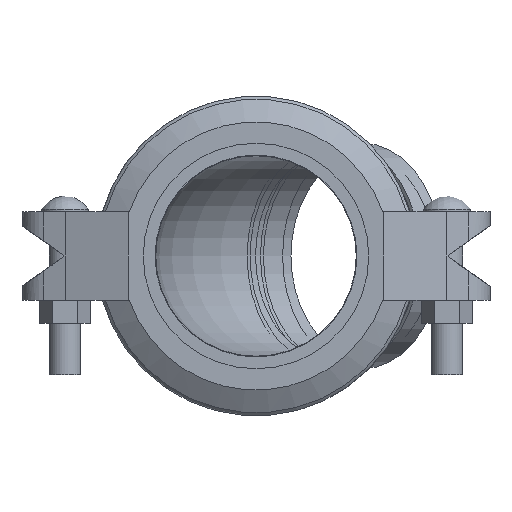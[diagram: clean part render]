
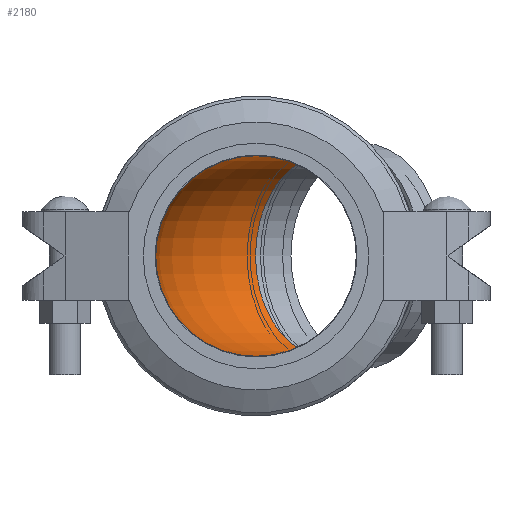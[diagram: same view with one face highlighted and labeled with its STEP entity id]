
A CAD part, left-side view. The second image highlights one B-rep face of the part: STEP entity #2180.
In plain terms, the highlighted toroidal (fillet/blend) face has major radius 122.642 mm and minor radius 51.13 mm.
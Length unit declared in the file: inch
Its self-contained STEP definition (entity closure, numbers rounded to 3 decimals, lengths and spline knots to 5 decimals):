
#70=TOROIDAL_SURFACE('',#2410,4.82843,2.013);
#471=FACE_OUTER_BOUND('',#592,.T.);
#592=EDGE_LOOP('',(#1386,#1387,#1388,#1389,#1390,#1391));
#735=CIRCLE('',#2411,2.013);
#736=CIRCLE('',#2412,2.013);
#737=CIRCLE('',#2413,2.81543);
#738=CIRCLE('',#2414,2.013);
#739=CIRCLE('',#2415,2.013);
#851=VERTEX_POINT('',#3360);
#852=VERTEX_POINT('',#3361);
#853=VERTEX_POINT('',#3364);
#854=VERTEX_POINT('',#3366);
#1063=EDGE_CURVE('',#851,#852,#735,.T.);
#1064=EDGE_CURVE('',#852,#851,#736,.T.);
#1065=EDGE_CURVE('',#851,#853,#737,.T.);
#1066=EDGE_CURVE('',#853,#854,#738,.T.);
#1067=EDGE_CURVE('',#854,#853,#739,.T.);
#1386=ORIENTED_EDGE('',*,*,#1063,.T.);
#1387=ORIENTED_EDGE('',*,*,#1064,.T.);
#1388=ORIENTED_EDGE('',*,*,#1065,.T.);
#1389=ORIENTED_EDGE('',*,*,#1066,.T.);
#1390=ORIENTED_EDGE('',*,*,#1067,.T.);
#1391=ORIENTED_EDGE('',*,*,#1065,.F.);
#2180=ADVANCED_FACE('',(#471),#70,.F.);
#2410=AXIS2_PLACEMENT_3D('',#3359,#2690,#2691);
#2411=AXIS2_PLACEMENT_3D('',#3362,#2692,#2693);
#2412=AXIS2_PLACEMENT_3D('',#3363,#2694,#2695);
#2413=AXIS2_PLACEMENT_3D('',#3365,#2696,#2697);
#2414=AXIS2_PLACEMENT_3D('',#3367,#2698,#2699);
#2415=AXIS2_PLACEMENT_3D('',#3368,#2700,#2701);
#2690=DIRECTION('center_axis',(0.,0.,-1.));
#2691=DIRECTION('ref_axis',(-1.,0.,0.));
#2692=DIRECTION('center_axis',(0.,-1.,0.));
#2693=DIRECTION('ref_axis',(1.,0.,0.));
#2694=DIRECTION('center_axis',(0.,-1.,0.));
#2695=DIRECTION('ref_axis',(1.,0.,0.));
#2696=DIRECTION('center_axis',(0.,0.,-1.));
#2697=DIRECTION('ref_axis',(-1.,0.,0.));
#2698=DIRECTION('center_axis',(0.707,0.707,0.));
#2699=DIRECTION('ref_axis',(0.707,-0.707,0.));
#2700=DIRECTION('center_axis',(0.707,0.707,0.));
#2701=DIRECTION('ref_axis',(0.707,-0.707,0.));
#3359=CARTESIAN_POINT('Origin',(4.82843,1.,0.));
#3360=CARTESIAN_POINT('',(2.013,1.,0.));
#3361=CARTESIAN_POINT('',(-2.013,1.,0.));
#3362=CARTESIAN_POINT('Origin',(0.,1.,0.));
#3363=CARTESIAN_POINT('Origin',(0.,1.,0.));
#3364=CARTESIAN_POINT('',(2.83762,2.99081,0.));
#3365=CARTESIAN_POINT('Origin',(4.82843,1.,0.));
#3366=CARTESIAN_POINT('',(-0.00919,5.83762,0.));
#3367=CARTESIAN_POINT('Origin',(1.41421,4.41421,0.));
#3368=CARTESIAN_POINT('Origin',(1.41421,4.41421,0.));
